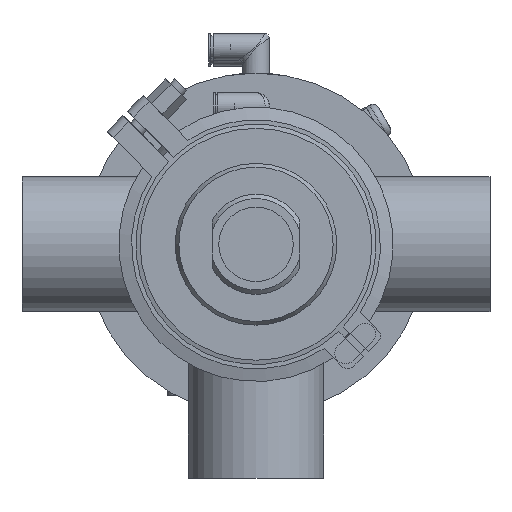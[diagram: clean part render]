
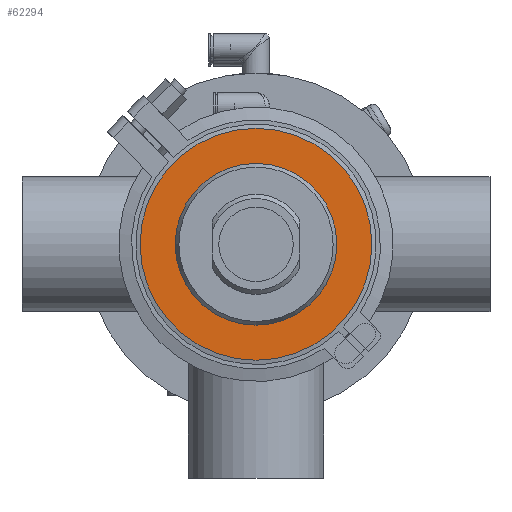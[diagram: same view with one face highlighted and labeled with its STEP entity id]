
A CAD part, front view. The second image highlights one B-rep face of the part: STEP entity #62294.
In plain terms, the highlighted planar face has unit normal (0, -1, 0).
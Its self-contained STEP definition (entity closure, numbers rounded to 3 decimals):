
#3911 = DIRECTION ( 'NONE',  ( 0., 1., 0. ) ) ;
#5057 = AXIS2_PLACEMENT_3D ( 'NONE', #58750, #35017, #58451 ) ;
#12733 = CARTESIAN_POINT ( 'NONE',  ( 0., -13., 38. ) ) ;
#13983 = CARTESIAN_POINT ( 'NONE',  ( -54.5, -13., 0. ) ) ;
#17528 = VERTEX_POINT ( 'NONE', #12733 ) ;
#18621 = VERTEX_POINT ( 'NONE', #38586 ) ;
#25505 = CIRCLE ( 'NONE', #5057, 38. ) ;
#28446 = PLANE ( 'NONE',  #57780 ) ;
#29157 = EDGE_LOOP ( 'NONE', ( #44005 ) ) ;
#30385 = EDGE_CURVE ( 'NONE', #17528, #17528, #25505, .T. ) ;
#35017 = DIRECTION ( 'NONE',  ( 0., 1., 0. ) ) ;
#38586 = CARTESIAN_POINT ( 'NONE',  ( 0., -13., 54.5 ) ) ;
#40514 = ORIENTED_EDGE ( 'NONE', *, *, #30385, .T. ) ;
#40853 = AXIS2_PLACEMENT_3D ( 'NONE', #47910, #3911, #47279 ) ;
#43295 = FACE_OUTER_BOUND ( 'NONE', #29157, .T. ) ;
#44005 = ORIENTED_EDGE ( 'NONE', *, *, #50797, .F. ) ;
#44318 = EDGE_LOOP ( 'NONE', ( #40514 ) ) ;
#47279 = DIRECTION ( 'NONE',  ( 0., 0., 1. ) ) ;
#47910 = CARTESIAN_POINT ( 'NONE',  ( 0., -13., 0. ) ) ;
#50797 = EDGE_CURVE ( 'NONE', #18621, #18621, #60288, .T. ) ;
#53217 = FACE_BOUND ( 'NONE', #44318, .T. ) ;
#57028 = DIRECTION ( 'NONE',  ( 0., 0., -1. ) ) ;
#57780 = AXIS2_PLACEMENT_3D ( 'NONE', #13983, #62768, #57028 ) ;
#58451 = DIRECTION ( 'NONE',  ( 0., 0., 1. ) ) ;
#58750 = CARTESIAN_POINT ( 'NONE',  ( 0., -13., 0. ) ) ;
#60288 = CIRCLE ( 'NONE', #40853, 54.5 ) ;
#62294 = ADVANCED_FACE ( 'NONE', ( #53217, #43295 ), #28446, .T. ) ;
#62768 = DIRECTION ( 'NONE',  ( 0., -1., 0. ) ) ;
